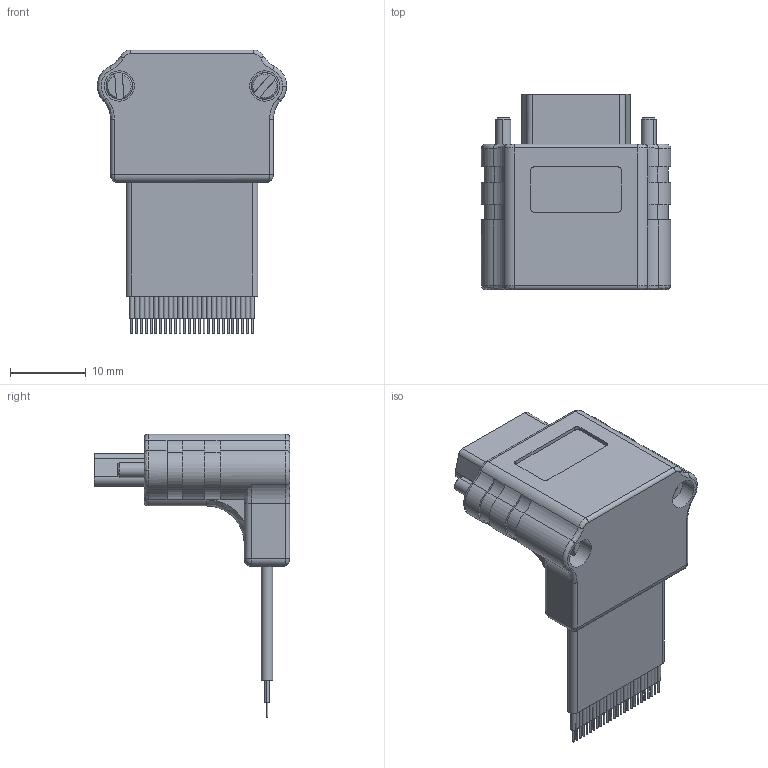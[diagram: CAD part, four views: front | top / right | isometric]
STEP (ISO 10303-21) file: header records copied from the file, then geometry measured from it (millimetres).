
FILE_DESCRIPTION (( 'STEP AP214' ), '1' );
FILE_NAME ('ICL-4.STEP', '2023-06-21T16:21:39', ( '' ), ( '' ), 'SwSTEP 2.0', 'SolidWorks 2021', '' );
FILE_SCHEMA (( 'AUTOMOTIVE_DESIGN' ));
Length unit declared in the file: millimetre
Products named in the file (5): ICL-4; ICL-4 & 5-Screw; HDR-E26MAGI+; ICL-4 & 5-Mold; ICL Cable_90201_26
Assembly tree (5 placements, depth 2):
  ICL-4
    HDR-E26MAGI+
    ICL-4 & 5-Mold
    ICL-4 & 5-Screw  x2
    ICL Cable_90201_26
Bounding box: 25 x 25.8 x 37.5 mm (x, y, z)
Volume: 5393.9 mm3; surface area: 5278.5 mm2
Topology: 57 solids, 57 shells, 1069 faces, 2537 edges, 1665 vertices
Faces by surface type: plane 811, cylinder 208, bspline 30, cone 20
Entity records: 33566 total; most frequent: CARTESIAN_POINT 6082, ORIENTED_EDGE 4930, DIRECTION 4858, EDGE_CURVE 2465, LINE 1986, VECTOR 1986, VERTEX_POINT 1623, AXIS2_PLACEMENT_3D 1436
